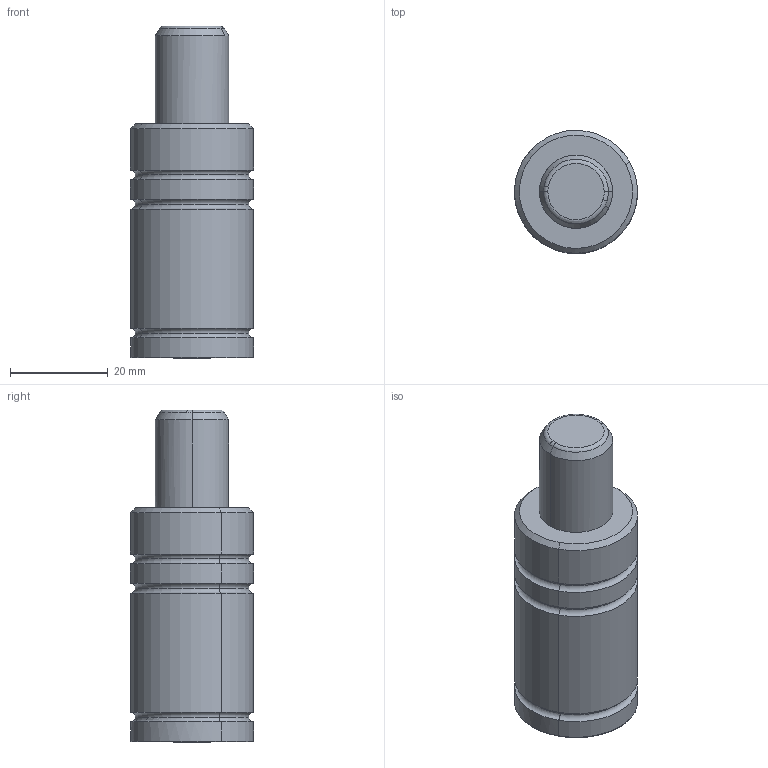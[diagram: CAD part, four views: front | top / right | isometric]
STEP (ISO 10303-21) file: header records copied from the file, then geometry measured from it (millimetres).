
FILE_DESCRIPTION(('CATIA V5 STEP Exchange'),'2;1');
FILE_NAME('W:\CATALOGO GENERAL 2018\FICHEROS CAD\001-MICRO\MICRO 25V\MICRO25Vx19.stp','2021-07-27T06:51:43+00:00',('none'),('none'),'CATIA Version 5 Release 17 (IN-10)','CATIA V5 STEP AP203','none');
FILE_SCHEMA(('CONFIG_CONTROL_DESIGN'));
Length unit declared in the file: millimetre
Products named in the file (1): MICRO25Vx19
Bounding box: 25.19 x 25.19 x 68 mm (x, y, z)
Volume: 26877.4 mm3; surface area: 6313 mm2
Topology: 2 solids, 2 shells, 42 faces, 83 edges, 46 vertices
Faces by surface type: torus 18, cylinder 12, cone 7, plane 5
Entity records: 1135 total; most frequent: CARTESIAN_POINT 282, ORIENTED_EDGE 166, DIRECTION 148, AXIS2_PLACEMENT_3D 94, EDGE_CURVE 83, CIRCLE 57, VERTEX_POINT 46, EDGE_LOOP 43
